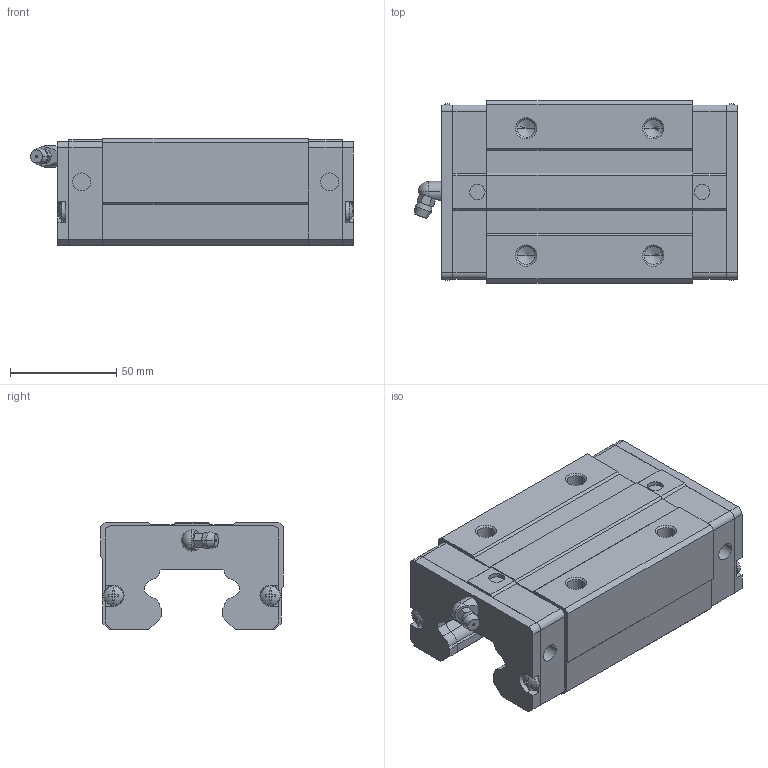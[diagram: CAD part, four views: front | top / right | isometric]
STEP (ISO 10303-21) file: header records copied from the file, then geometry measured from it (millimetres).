
FILE_DESCRIPTION(('starvars output'),'2;1');
FILE_NAME('cv20190625225542000064847.stp','22:55:42 2019/06/25',( 'Thomas Industrial Network Germany GmbH'),( 'Thomas Industrial Network Germany GmbH'),'unknown preprocess','ACIS' ,'unknown authorization');
FILE_SCHEMA(('CONFIG_CONTROL_DESIGN {UNKNOWN IMPLEMENTATION LEVEL}'));
Length unit declared in the file: millimetre
Products named in the file (10): PRODUCT_ID_1; PRODUCT_ID_2; PRODUCT_ID_3; PRODUCT_ID_4; PRODUCT_ID_5; PRODUCT_ID_6; PRODUCT_ID_7; PRODUCT_ID_8; PRODUCT_ID_9; PRODUCT_ID_10
Bounding box: 152.3 x 86 x 50.5 mm (x, y, z)
Volume: 436707.2 mm3; surface area: 82545.6 mm2
Topology: 10 solids, 10 shells, 392 faces, 1001 edges, 635 vertices
Faces by surface type: plane 244, cone 70, cylinder 66, sphere 12
Entity records: 11374 total; most frequent: ORIENTED_EDGE 1978, CARTESIAN_POINT 1875, DIRECTION 1563, EDGE_CURVE 989, VERTEX_POINT 635, VECTOR 629, LINE 629, AXIS2_PLACEMENT_3D 467
